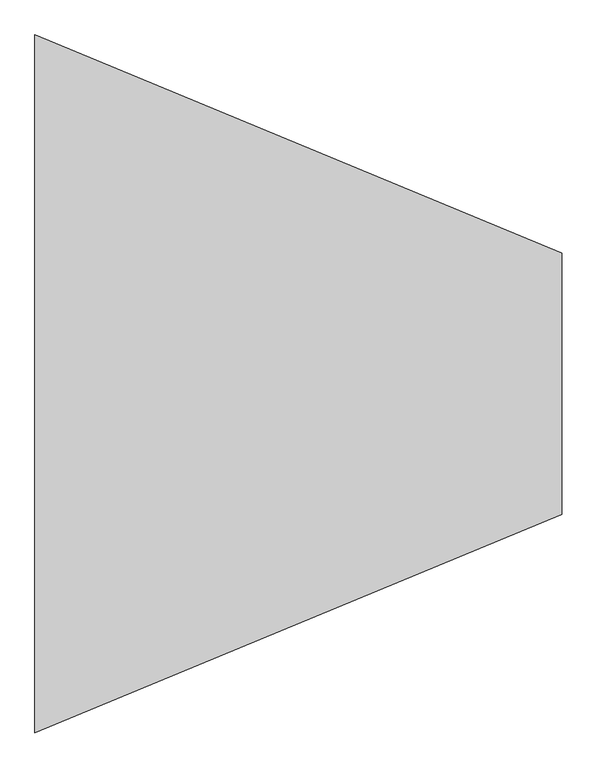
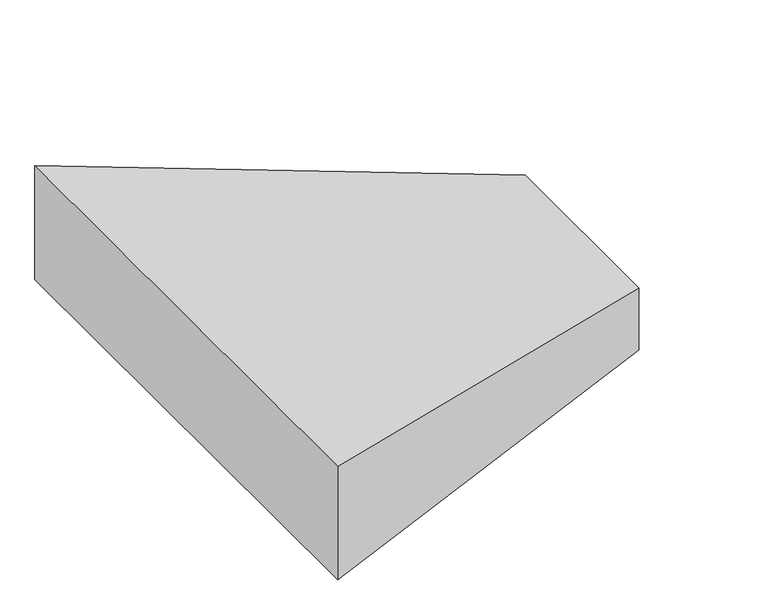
"""IFC4 building model written with IfcOpenShell, lengths in millimetres: duct fitting geometry, M_Transición rectangular - Ángulo : EXT_45 graus."""

from ifc_helpers import new_model, si_unit, origin, place, context, project, spatial, faceted_brep, source, transform, mapped, element, save


def duct_fitting_d0abd107(model_context):
    return source(origin(), model_context, "Body", "Brep", [
        faceted_brep([(905.3300859, -225.0, 25.0), (905.3300859, -225.0, -125.0), (905.3300859, 225.0, -125.0), (905.3300859, 225.0, 25.0), (0.0, -600.0, 137.5), (0.0, 600.0, 137.5), (0.0, 600.0, -137.5), (0.0, -600.0, -137.5)], [[[0, 1, 2, 3]], [[4, 5, 6, 7]], [[4, 7, 1, 0]], [[7, 6, 2, 1]], [[6, 5, 3, 2]], [[5, 4, 0, 3]]]),
    ])


if __name__ == "__main__":
    model = new_model("IFC4")
    model_context = context("Model", 3, world=origin())
    ifc_project = project(units=[si_unit("LENGTHUNIT", "METRE", prefix="MILLI")], contexts=[model_context])
    site = spatial("IfcSite", under=ifc_project)
    building = spatial("IfcBuilding", under=site)
    placement = place(None, origin())
    duct_fitting_shape = duct_fitting_d0abd107(model_context)
    element("IfcDuctFitting", 1, ObjectType="M_Transición rectangular - Ángulo : EXT_45 graus", at=placement, inside=building, context=model_context, shape_type="MappedRepresentation", body=[
        mapped(duct_fitting_shape, transform((0.0, 0.0, 0.0), x_axis=(1.0, 0.0, 0.0), y_axis=(0.0, 1.0, 0.0), z_axis=(0.0, 0.0, 1.0))),
    ])
    save(model, "model.ifc")
